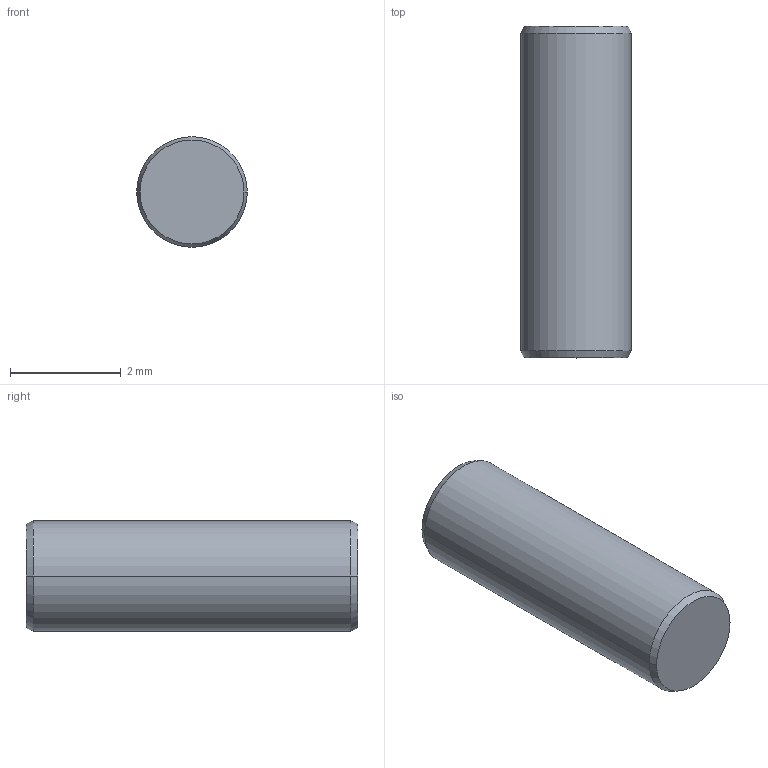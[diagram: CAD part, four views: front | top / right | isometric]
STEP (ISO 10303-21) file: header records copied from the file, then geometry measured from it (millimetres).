
FILE_DESCRIPTION((''),'2;1');
FILE_NAME('PIN','2024-02-21T17:09:10',('qinghui.yi'),(''),'CREO PARAMETRIC BY PTC INC, 2019164','CREO PARAMETRIC BY PTC INC, 2019164','');
FILE_SCHEMA(('CONFIG_CONTROL_DESIGN','SHAPE_APPEARANCE_LAYERS_GROUPS'));
Length unit declared in the file: millimetre
Products named in the file (1): PIN
Bounding box: 2 x 6 x 2 mm (x, y, z)
Volume: 18.8 mm3; surface area: 43.4 mm2
Topology: 1 solids, 1 shells, 8 faces, 17 edges, 14 vertices
Faces by surface type: cone 4, plane 2, cylinder 2
Entity records: 593 total; most frequent: COLOUR_RGB 312, DIRECTION 43, CARTESIAN_POINT 34, ORIENTED_EDGE 28, AXIS2_PLACEMENT_3D 17, EDGE_CURVE 14, VECTOR 9, LINE 9
